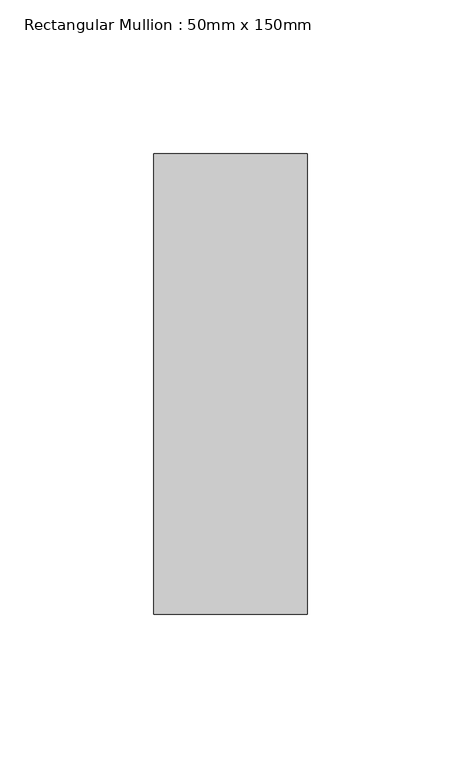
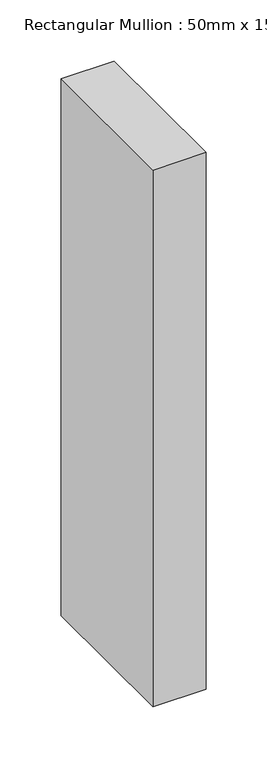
"""IFC4 building model written with IfcOpenShell, lengths in millimetres: member geometry, Rectangular Mullion : 50mm x 150mm."""

from ifc_helpers import new_model, si_unit, frame, origin, place, context, project, spatial, polyline, outline, extrude, source, transform, mapped, element, save


def rectangular_mullion_50mm_x_150mm_df95c845(model_context):
    return source(origin(), model_context, "Body", "SweptSolid", [
        extrude(outline(polyline([(0.0, 75.0), (0.0, -75.0), (-50.0, -75.0), (-50.0, 75.0), (0.0, 75.0)])), frame((0.0, 0.0, -535.0), z_axis=(0.0, 0.0, 1.0), x_axis=(1.0, 0.0, 0.0)), (0.0, 0.0, 1.0), 535.0),
    ])


if __name__ == "__main__":
    model = new_model("IFC4")
    model_context = context("Model", 3, world=origin())
    ifc_project = project(units=[si_unit("LENGTHUNIT", "METRE", prefix="MILLI")], contexts=[model_context])
    site = spatial("IfcSite", under=ifc_project)
    building = spatial("IfcBuilding", under=site)
    placement = place(None, origin())
    rectangular_mullion_50mm_x_150mm_shape = rectangular_mullion_50mm_x_150mm_df95c845(model_context)
    element("IfcMember", 1, ObjectType="Rectangular Mullion : 50mm x 150mm", at=placement, inside=building, context=model_context, shape_type="MappedRepresentation", body=[
        mapped(rectangular_mullion_50mm_x_150mm_shape, transform((0.0, 0.0, 0.0), x_axis=(1.0, 0.0, 0.0), y_axis=(0.0, 1.0, 0.0), z_axis=(0.0, 0.0, 1.0))),
    ])
    save(model, "model.ifc")
